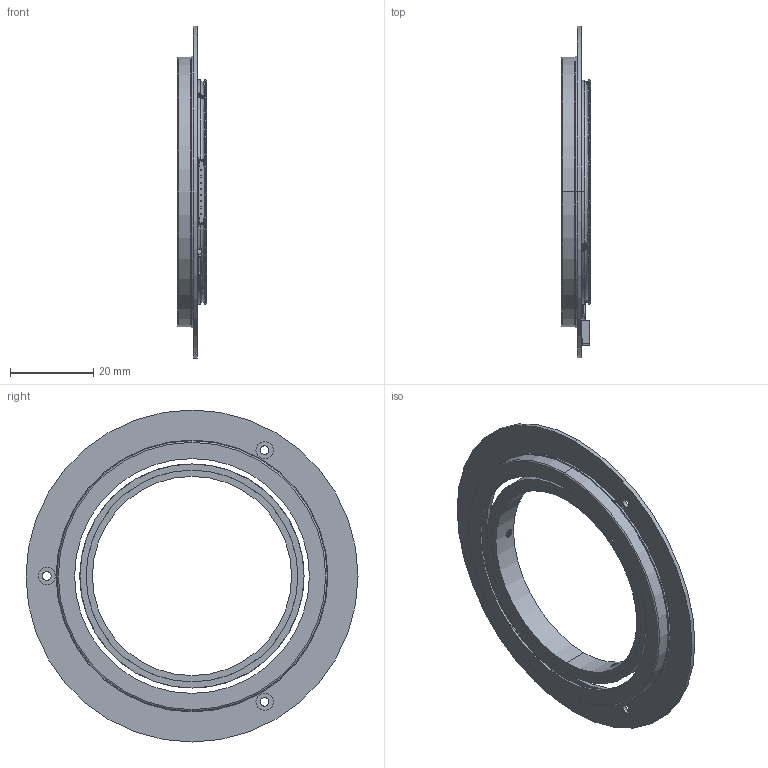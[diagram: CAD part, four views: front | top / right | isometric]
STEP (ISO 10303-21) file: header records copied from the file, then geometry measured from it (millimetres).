
FILE_DESCRIPTION (( 'STEP AP214' ), '1' );
FILE_NAME ('MBS-48-67¸üÐÂ.STEP', '2024-07-18T00:42:14', ( 'C' ), ( 'Microsoft' ), 'SwSTEP 2.0', 'SolidWorks 2016', '' );
FILE_SCHEMA (( 'AUTOMOTIVE_DESIGN' ));
Length unit declared in the file: millimetre
Products named in the file (8): NONE; ____-____1-40081; REVOLVE1_3_; MBS-48-67載陔; ASM0001_ASM; ____-____2; ____-____1-70029; REVOLVE1_1_
Assembly tree (7 placements, depth 3):
  MBS-48-67載陔
    ASM0001_ASM
      REVOLVE1_3_
      ____-____1-40081
      NONE
      REVOLVE1_1_
      ____-____1-70029
      ____-____2
Bounding box: 7 x 80 x 80 mm (x, y, z)
Volume: 5879.6 mm3; surface area: 12983.1 mm2
Topology: 6 solids, 6 shells, 865 faces, 2406 edges, 1562 vertices
Faces by surface type: plane 573, cylinder 182, bspline 74, sphere 16, cone 12, torus 8
Entity records: 48052 total; most frequent: CARTESIAN_POINT 18770, ORIENTED_EDGE 4780, DIRECTION 3978, EDGE_CURVE 2390, VECTOR 1766, LINE 1766, VERTEX_POINT 1562, AXIS2_PLACEMENT_3D 1106
